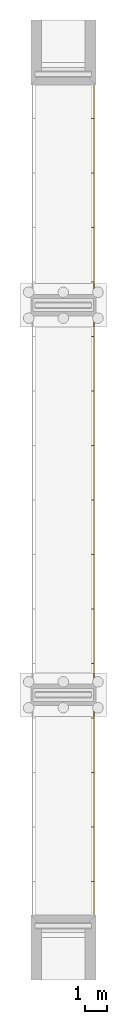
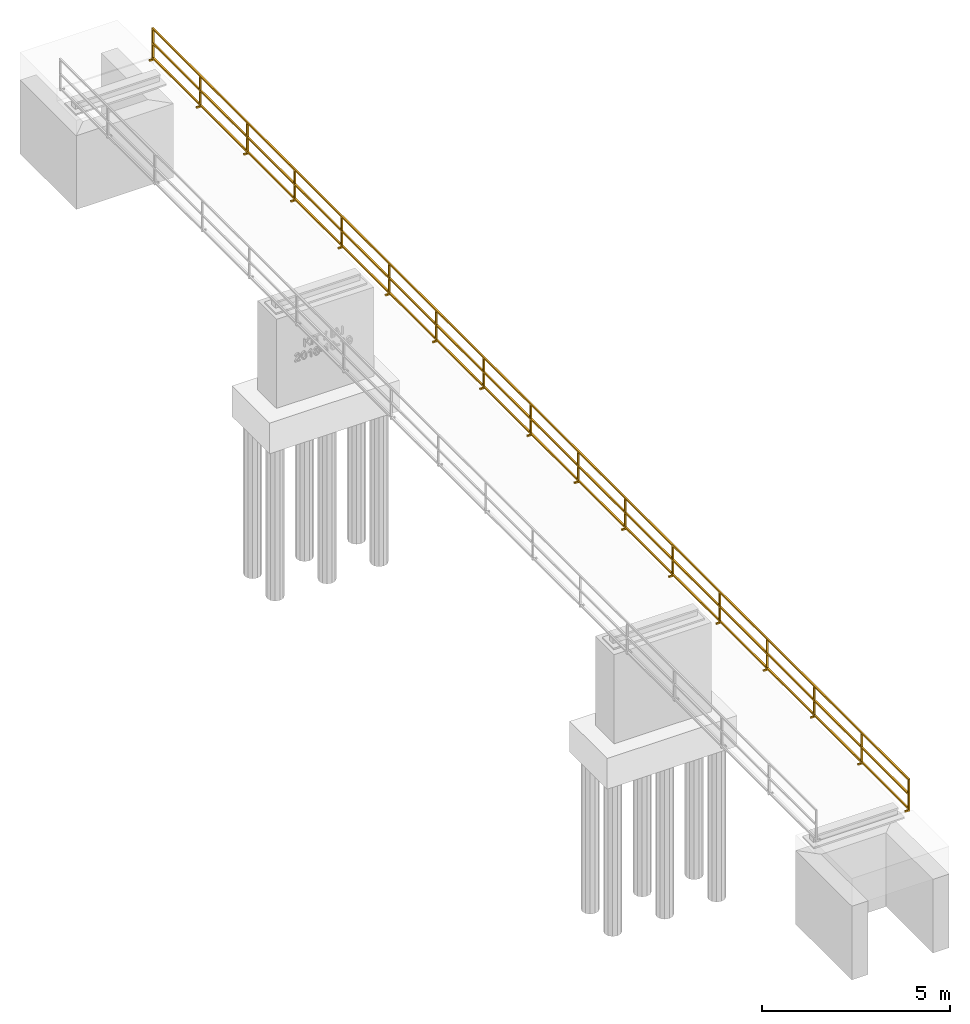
# Not in any storey, part 4 of 5: 1 railing.
"""IFC4X2 model written with IfcOpenShell, lengths in millimetres."""

from ifc_helpers import new_model, entity, si_unit, converted_unit, direction, frame, origin, origin_with_axes, place, context, project, spatial, faceted_brep, element, save


model = new_model("IFC4X2")

# Units and contexts
model_context = context("Model", 3, precision=1e-05, world=origin(), true_north=direction((0.0, 1.0)))
ifc_project = project(units=[si_unit("LENGTHUNIT", "METRE", prefix="MILLI"), si_unit("AREAUNIT", "SQUARE_METRE"), si_unit("VOLUMEUNIT", "CUBIC_METRE"), converted_unit("PLANEANGLEUNIT", "DEGREE", entity("IfcPlaneAngleMeasure", 0.01745), si_unit("PLANEANGLEUNIT", "RADIAN"), dimensions=[0, 0, 0, 0, 0, 0, 0]), si_unit("SOLIDANGLEUNIT", "STERADIAN"), si_unit("MASSUNIT", "GRAM"), si_unit("TIMEUNIT", "SECOND"), si_unit("THERMODYNAMICTEMPERATUREUNIT", "DEGREE_CELSIUS"), si_unit("LUMINOUSINTENSITYUNIT", "LUMEN")], contexts=[model_context])

# Site, bridge, bridge part
placement = place(None, origin_with_axes())
site_placement = place(placement, frame((-19933.8083659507, -30174.99999999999, -13595.54569832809), z_axis=(0.0, 0.0, 1.0), x_axis=(1.0, 0.0, 0.0)))
site = spatial("IfcSite", under=ifc_project, at=site_placement, Name="Default Site", CompositionType="ELEMENT")
bridge_placement = place(placement, origin_with_axes())
bridge = spatial("IfcBridge", under=site, at=bridge_placement, Name="KIT - Bridge", CompositionType="ELEMENT")
bridge_part_placement = place(bridge_placement, origin_with_axes())
bridge_part = spatial("IfcBridgePart", under=bridge, at=bridge_part_placement, Name="Superstructure", CompositionType="ELEMENT", PredefinedType="SUBSTRUCTURE")

# Railing
railing_placement = place(bridge_part_placement, frame((3449.99999999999, 10024.99999999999, 3249.999999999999), z_axis=(0.0, 0.0, 1.0), x_axis=(-1.0, 7.771561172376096e-16, 0.0)))
element("IfcRailing", 1, at=railing_placement, inside=bridge_part, Name="Railing-02", context=model_context, shape_type="Brep", body=[
    faceted_brep([(0.0, 0.0, 0.0), (-7.219114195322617e-13, -5.775291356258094e-12, 50.00000000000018), (-2.165734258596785e-12, -2468.750000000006, 50.00000000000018), (-2.165734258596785e-12, -2468.750000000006, 0.0), (-2.165734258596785e-12, -2518.750000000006, 0.0), (-2.165734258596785e-12, -2518.750000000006, 50.00000000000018), (-2.165734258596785e-12, -4987.500000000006, 50.00000000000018), (-2.165734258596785e-12, -4987.500000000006, 0.0), (-2.165734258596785e-12, -5037.500000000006, 0.0), (-2.165734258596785e-12, -5037.500000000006, 50.00000000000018), (-7.219114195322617e-13, -7506.250000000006, 50.00000000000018), (-7.219114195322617e-13, -7506.250000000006, 0.0), (-7.219114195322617e-13, -7556.250000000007, 0.0), (-7.219114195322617e-13, -7556.250000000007, 50.00000000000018), (-2.165734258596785e-12, -10025.0, 50.00000000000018), (-2.165734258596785e-12, -10025.0, 0.0), (-2.165734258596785e-12, -10075.0, 0.0), (-2.165734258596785e-12, -10075.0, 50.00000000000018), (-2.887645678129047e-12, -12543.75, 50.00000000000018), (-2.887645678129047e-12, -12543.75, 0.0), (-2.165734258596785e-12, -12593.75, 0.0), (-2.165734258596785e-12, -12593.75, 50.00000000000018), (-2.165734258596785e-12, -15062.5, 50.00000000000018), (-2.165734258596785e-12, -15062.5, 0.0), (-2.165734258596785e-12, -15112.5, 0.0), (-2.165734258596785e-12, -15112.5, 50.00000000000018), (-7.219114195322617e-13, -17581.25, 50.00000000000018), (-7.219114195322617e-13, -17581.25, 0.0), (-7.219114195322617e-13, -17631.25, 0.0), (-7.219114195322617e-13, -17631.25, 50.00000000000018), (-2.165734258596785e-12, -20100.0, 50.00000000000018), (-2.165734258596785e-12, -20100.0, 0.0), (-2.165734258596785e-12, -20150.0, 0.0), (-2.165734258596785e-12, -20150.0, 1050.0), (0.0, 20200.0, 1050.0), (0.0, 20200.0, 0.0), (0.0, 20150.0, 0.0), (0.0, 20150.0, 50.00000000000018), (0.0, 17681.25, 50.00000000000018), (0.0, 17681.25, 0.0), (0.0, 17631.25, 0.0), (0.0, 17631.25, 50.00000000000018), (-2.887645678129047e-12, 15162.5, 50.00000000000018), (-2.887645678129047e-12, 15162.5, 0.0), (-2.887645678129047e-12, 15112.5, 0.0), (-2.887645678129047e-12, 15112.5, 50.00000000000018), (0.0, 12643.75, 50.00000000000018), (0.0, 12643.75, 0.0), (0.0, 12593.75, 0.0), (0.0, 12593.75, 50.00000000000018), (0.0, 10125.0, 50.00000000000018), (0.0, 10125.0, 0.0), (0.0, 10075.0, 0.0), (0.0, 10075.0, 50.00000000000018), (-2.887645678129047e-12, 7606.250000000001, 50.00000000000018), (-2.887645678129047e-12, 7606.250000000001, 0.0), (0.0, 7556.250000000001, 0.0), (0.0, 7556.250000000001, 50.00000000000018), (-2.887645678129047e-12, 5087.500000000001, 50.00000000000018), (-2.887645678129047e-12, 5087.500000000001, 0.0), (-2.887645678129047e-12, 5037.500000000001, 0.0), (-2.887645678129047e-12, 5037.500000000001, 50.00000000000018), (0.0, 2568.75, 50.00000000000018), (0.0, 2568.75, 0.0), (0.0, 2518.75, 0.0), (0.0, 2518.75, 50.00000000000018), (0.0, 50.00000000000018, 50.00000000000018), (0.0, 50.00000000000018, 0.0), (-7.219114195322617e-13, -5.775291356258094e-12, 100.0000000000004), (-7.219114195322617e-13, -5.775291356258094e-12, 525.0000000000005), (-2.165734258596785e-12, -2468.750000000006, 525.0000000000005), (-2.165734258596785e-12, -2468.750000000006, 100.0000000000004), (0.0, 50.00000000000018, 1000.0), (0.0, 50.00000000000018, 575.0000000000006), (0.0, 2518.75, 575.0000000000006), (0.0, 2518.75, 1000.0), (0.0, 50.00000000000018, 525.0000000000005), (0.0, 50.00000000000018, 100.0000000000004), (0.0, 2518.75, 100.0000000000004), (0.0, 2518.75, 525.0000000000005), (-7.219114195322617e-13, -5.775291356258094e-12, 575.0000000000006), (-7.219114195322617e-13, -5.775291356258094e-12, 1000.0), (-2.165734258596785e-12, -2468.750000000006, 1000.0), (-2.165734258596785e-12, -2468.750000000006, 575.0000000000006), (-2.165734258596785e-12, -2518.750000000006, 575.0000000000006), (-2.165734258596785e-12, -2518.750000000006, 1000.0), (-2.165734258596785e-12, -4987.500000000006, 1000.0), (-2.165734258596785e-12, -4987.500000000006, 575.0000000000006), (-2.165734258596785e-12, -2518.750000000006, 100.0000000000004), (-2.165734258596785e-12, -2518.750000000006, 525.0000000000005), (-2.165734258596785e-12, -4987.500000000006, 525.0000000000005), (-2.165734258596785e-12, -4987.500000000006, 100.0000000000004), (-2.165734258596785e-12, -5037.500000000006, 575.0000000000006), (-2.165734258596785e-12, -5037.500000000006, 1000.0), (-7.219114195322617e-13, -7506.250000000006, 1000.0), (-7.219114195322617e-13, -7506.250000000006, 575.0000000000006), (-2.165734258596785e-12, -5037.500000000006, 100.0000000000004), (-2.165734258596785e-12, -5037.500000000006, 525.0000000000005), (-7.219114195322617e-13, -7506.250000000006, 525.0000000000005), (-7.219114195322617e-13, -7506.250000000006, 100.0000000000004), (-7.219114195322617e-13, -7556.250000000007, 575.0000000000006), (-7.219114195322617e-13, -7556.250000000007, 1000.0), (-2.165734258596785e-12, -10025.0, 1000.0), (-2.165734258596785e-12, -10025.0, 575.0000000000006), (-7.219114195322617e-13, -7556.250000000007, 100.0000000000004), (-7.219114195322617e-13, -7556.250000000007, 525.0000000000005), (-2.165734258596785e-12, -10025.0, 525.0000000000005), (-2.165734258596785e-12, -10025.0, 100.0000000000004), (-7.219114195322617e-13, -17631.25, 100.0000000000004), (-7.219114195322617e-13, -17631.25, 525.0000000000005), (-2.165734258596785e-12, -20100.0, 525.0000000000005), (-2.165734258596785e-12, -20100.0, 100.0000000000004), (-7.219114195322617e-13, -17631.25, 575.0000000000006), (-7.219114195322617e-13, -17631.25, 1000.0), (-2.165734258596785e-12, -20100.0, 1000.0), (-2.165734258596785e-12, -20100.0, 575.0000000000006), (-2.165734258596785e-12, -15112.5, 100.0000000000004), (-2.165734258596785e-12, -15112.5, 525.0000000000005), (-7.219114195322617e-13, -17581.25, 525.0000000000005), (-7.219114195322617e-13, -17581.25, 100.0000000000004), (-2.165734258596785e-12, -15112.5, 575.0000000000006), (-2.165734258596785e-12, -15112.5, 1000.0), (-7.219114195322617e-13, -17581.25, 1000.0), (-7.219114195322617e-13, -17581.25, 575.0000000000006), (-2.165734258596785e-12, -15062.5, 525.0000000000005), (-2.165734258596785e-12, -15062.5, 100.0000000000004), (-2.165734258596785e-12, -12593.75, 100.0000000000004), (-2.165734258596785e-12, -12593.75, 525.0000000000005), (-2.165734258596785e-12, -15062.5, 1000.0), (-2.165734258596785e-12, -15062.5, 575.0000000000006), (-2.165734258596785e-12, -12593.75, 575.0000000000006), (-2.165734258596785e-12, -12593.75, 1000.0), (-2.887645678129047e-12, -12543.75, 525.0000000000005), (-2.887645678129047e-12, -12543.75, 100.0000000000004), (-2.165734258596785e-12, -10075.0, 100.0000000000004), (-2.165734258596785e-12, -10075.0, 525.0000000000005), (-2.887645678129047e-12, -12543.75, 1000.0), (-2.887645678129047e-12, -12543.75, 575.0000000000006), (-2.165734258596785e-12, -10075.0, 575.0000000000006), (-2.165734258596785e-12, -10075.0, 1000.0), (0.0, 17681.25, 1000.0), (0.0, 17681.25, 575.0000000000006), (0.0, 20150.0, 575.0000000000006), (0.0, 20150.0, 1000.0), (0.0, 17681.25, 525.0000000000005), (0.0, 17681.25, 100.0000000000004), (0.0, 20150.0, 100.0000000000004), (0.0, 20150.0, 525.0000000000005), (0.0, 17631.25, 100.0000000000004), (0.0, 17631.25, 525.0000000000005), (-2.887645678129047e-12, 15162.5, 525.0000000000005), (-2.887645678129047e-12, 15162.5, 100.0000000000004), (0.0, 17631.25, 575.0000000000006), (0.0, 17631.25, 1000.0), (-2.887645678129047e-12, 15162.5, 1000.0), (-2.887645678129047e-12, 15162.5, 575.0000000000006), (-2.887645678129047e-12, 15112.5, 100.0000000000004), (-2.887645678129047e-12, 15112.5, 525.0000000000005), (0.0, 12643.75, 525.0000000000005), (0.0, 12643.75, 100.0000000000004), (-2.887645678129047e-12, 15112.5, 575.0000000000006), (-2.887645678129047e-12, 15112.5, 1000.0), (0.0, 12643.75, 1000.0), (0.0, 12643.75, 575.0000000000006), (0.0, 12593.75, 100.0000000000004), (0.0, 12593.75, 525.0000000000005), (0.0, 10125.0, 525.0000000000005), (0.0, 10125.0, 100.0000000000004), (0.0, 12593.75, 575.0000000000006), (0.0, 12593.75, 1000.0), (0.0, 10125.0, 1000.0), (0.0, 10125.0, 575.0000000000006), (-2.887645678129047e-12, 7606.249999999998, 525.0000000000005), (-2.887645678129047e-12, 7606.250000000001, 100.0000000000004), (0.0, 10075.0, 100.0000000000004), (0.0, 10075.0, 525.0000000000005), (-2.887645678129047e-12, 7606.249999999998, 1000.0), (-2.887645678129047e-12, 7606.249999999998, 575.0000000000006), (0.0, 10075.0, 575.0000000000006), (0.0, 10075.0, 1000.0), (0.0, 7556.249999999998, 575.0000000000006), (0.0, 7556.249999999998, 1000.0), (-2.887645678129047e-12, 5087.500000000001, 1000.0), (-2.887645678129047e-12, 5087.500000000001, 575.0000000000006), (0.0, 7556.249999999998, 100.0000000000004), (0.0, 7556.249999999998, 525.0000000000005), (-2.887645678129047e-12, 5087.500000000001, 525.0000000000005), (-2.887645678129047e-12, 5087.500000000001, 100.0000000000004), (0.0, 2568.75, 525.0000000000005), (0.0, 2568.75, 100.0000000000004), (-2.887645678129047e-12, 5037.500000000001, 100.0000000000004), (-2.887645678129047e-12, 5037.500000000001, 525.0000000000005), (0.0, 2568.75, 1000.0), (0.0, 2568.75, 575.0000000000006), (-2.887645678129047e-12, 5037.500000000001, 575.0000000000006), (-2.887645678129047e-12, 5037.500000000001, 1000.0), (149.9999999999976, -20100.0, 50.00000000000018), (149.9999999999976, -20150.0, 50.00000000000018), (149.9999999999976, -20150.0, 0.0), (149.9999999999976, -20100.0, 0.0), (49.99999999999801, -20100.0, 50.00000000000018), (49.99999999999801, -20150.0, 50.00000000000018), (49.99999999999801, -10075.0, 50.00000000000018), (49.99999999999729, -12543.75, 50.00000000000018), (149.9999999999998, 50.00000000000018, 0.0), (149.9999999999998, 0.0, 0.0), (149.9999999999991, -7506.250000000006, 0.0), (149.9999999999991, -7556.250000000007, 0.0), (49.99999999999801, -15112.5, 50.00000000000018), (49.99999999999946, -17581.25, 50.00000000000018), (49.99999999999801, -12593.75, 50.00000000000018), (49.99999999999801, -15062.5, 50.00000000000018), (49.99999999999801, -2518.750000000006, 50.00000000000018), (49.99999999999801, -4987.500000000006, 50.00000000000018), (149.9999999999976, -10075.0, 0.0), (149.9999999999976, -10075.0, 50.00000000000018), (149.9999999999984, -15112.5, 0.0), (149.9999999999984, -15112.5, 50.00000000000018), (49.99999999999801, -5037.500000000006, 50.00000000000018), (49.99999999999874, -7506.250000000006, 50.00000000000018), (149.9999999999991, -7506.250000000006, 50.00000000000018), (49.99999999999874, -7556.250000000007, 50.00000000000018), (49.99999999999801, -10025.0, 50.00000000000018), (149.9999999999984, -15062.5, 50.00000000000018), (149.9999999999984, -15062.5, 0.0), (149.9999999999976, -5037.500000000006, 0.0), (149.9999999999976, -5037.500000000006, 50.00000000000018), (149.9999999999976, -4987.500000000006, 50.00000000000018), (149.9999999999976, -4987.500000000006, 0.0), (149.9999999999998, 50.00000000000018, 50.00000000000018), (50.00000000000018, 50.00000000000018, 50.00000000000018), (50.00000000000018, 0.0, 50.00000000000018), (149.9999999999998, 0.0, 50.00000000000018), (49.99999999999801, -20150.0, 1050.0), (149.9999999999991, -7556.250000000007, 50.00000000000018), (149.9999999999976, -10025.0, 0.0), (149.9999999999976, -10025.0, 50.00000000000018), (149.9999999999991, -17631.25, 50.00000000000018), (149.9999999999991, -17581.25, 50.00000000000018), (49.99999999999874, -17631.25, 50.00000000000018), (149.9999999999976, -12543.75, 50.00000000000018), (149.9999999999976, -12593.75, 50.00000000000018), (149.9999999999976, -12593.75, 0.0), (149.9999999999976, -12543.75, 0.0), (149.9999999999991, -17631.25, 0.0), (149.9999999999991, -17581.25, 0.0), (49.99999999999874, -5.775291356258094e-12, 100.0000000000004), (49.99999999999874, -5.775291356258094e-12, 525.0000000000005), (49.99999999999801, -15062.5, 1000.0), (49.99999999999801, -15062.5, 575.0000000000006), (49.99999999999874, -7556.250000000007, 1000.0), (49.99999999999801, -10025.0, 1000.0), (49.99999999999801, -2468.750000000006, 525.0000000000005), (49.99999999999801, -2468.750000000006, 100.0000000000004), (49.99999999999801, -15112.5, 575.0000000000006), (49.99999999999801, -15112.5, 1000.0), (49.99999999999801, -12593.75, 575.0000000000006), (49.99999999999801, -12593.75, 1000.0), (49.99999999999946, -17581.25, 1000.0), (49.99999999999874, -7556.250000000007, 575.0000000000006), (49.99999999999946, -17581.25, 575.0000000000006), (49.99999999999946, 2518.75, 50.00000000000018), (50.00000000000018, 2568.75, 50.00000000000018), (49.99999999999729, 5037.500000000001, 50.00000000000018), (49.99999999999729, 5087.500000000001, 50.00000000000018), (50.00000000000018, 7556.250000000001, 50.00000000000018), (49.99999999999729, 7606.250000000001, 50.00000000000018), (50.00000000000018, 10075.0, 50.00000000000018), (50.00000000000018, 10125.0, 50.00000000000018), (49.99999999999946, 12593.75, 50.00000000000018), (49.99999999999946, 12643.75, 50.00000000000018), (49.99999999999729, 15112.5, 50.00000000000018), (49.99999999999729, 15162.5, 50.00000000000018), (50.00000000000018, 17631.25, 50.00000000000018), (50.00000000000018, 17681.25, 50.00000000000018), (49.99999999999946, 20150.0, 50.00000000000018), (49.99999999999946, 20200.0, 50.00000000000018), (49.99999999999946, 20200.0, 1050.0), (49.99999999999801, -2468.750000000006, 50.00000000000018), (49.99999999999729, -12543.75, 575.0000000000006), (49.99999999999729, -12543.75, 1000.0), (49.99999999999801, -10075.0, 1000.0), (49.99999999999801, -10075.0, 575.0000000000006), (49.99999999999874, -7506.250000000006, 525.0000000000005), (49.99999999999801, -5037.500000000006, 525.0000000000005), (49.99999999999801, -5037.500000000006, 100.0000000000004), (49.99999999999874, -7506.250000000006, 100.0000000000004), (49.99999999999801, -4987.500000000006, 525.0000000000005), (49.99999999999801, -2518.750000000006, 525.0000000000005), (49.99999999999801, -2518.750000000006, 100.0000000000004), (49.99999999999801, -4987.500000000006, 100.0000000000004), (49.99999999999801, -10025.0, 575.0000000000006), (49.99999999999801, -20100.0, 575.0000000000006), (49.99999999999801, -20100.0, 1000.0), (49.99999999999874, -17631.25, 1000.0), (49.99999999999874, -17631.25, 575.0000000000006), (49.99999999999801, -20100.0, 525.0000000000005), (49.99999999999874, -17631.25, 525.0000000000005), (49.99999999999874, -17631.25, 100.0000000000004), (49.99999999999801, -20100.0, 100.0000000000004), (49.99999999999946, -17581.25, 525.0000000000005), (49.99999999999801, -15112.5, 525.0000000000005), (49.99999999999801, -15112.5, 100.0000000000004), (49.99999999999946, -17581.25, 100.0000000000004), (49.99999999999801, -2468.750000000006, 575.0000000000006), (49.99999999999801, -2468.750000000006, 1000.0), (49.99999999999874, -5.775291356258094e-12, 1000.0), (49.99999999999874, -5.775291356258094e-12, 575.0000000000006), (49.99999999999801, -4987.500000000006, 575.0000000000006), (49.99999999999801, -4987.500000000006, 1000.0), (49.99999999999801, -2518.750000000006, 1000.0), (49.99999999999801, -2518.750000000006, 575.0000000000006), (49.99999999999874, -7506.250000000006, 575.0000000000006), (49.99999999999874, -7506.250000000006, 1000.0), (49.99999999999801, -5037.500000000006, 1000.0), (49.99999999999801, -5037.500000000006, 575.0000000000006), (49.99999999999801, -10025.0, 525.0000000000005), (49.99999999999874, -7556.250000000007, 525.0000000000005), (49.99999999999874, -7556.250000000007, 100.0000000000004), (49.99999999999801, -10025.0, 100.0000000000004), (49.99999999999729, -12543.75, 525.0000000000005), (49.99999999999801, -10075.0, 525.0000000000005), (49.99999999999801, -10075.0, 100.0000000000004), (49.99999999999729, -12543.75, 100.0000000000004), (49.99999999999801, -15062.5, 525.0000000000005), (49.99999999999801, -12593.75, 525.0000000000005), (49.99999999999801, -12593.75, 100.0000000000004), (49.99999999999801, -15062.5, 100.0000000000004), (49.99999999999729, 5087.500000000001, 525.0000000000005), (50.00000000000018, 7556.249999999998, 525.0000000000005), (50.00000000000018, 7556.249999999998, 100.0000000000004), (49.99999999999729, 5087.500000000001, 100.0000000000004), (49.99999999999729, 7606.249999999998, 525.0000000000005), (50.00000000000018, 10075.0, 525.0000000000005), (50.00000000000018, 10075.0, 100.0000000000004), (49.99999999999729, 7606.250000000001, 100.0000000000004), (50.00000000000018, 10125.0, 525.0000000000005), (49.99999999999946, 12593.75, 525.0000000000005), (49.99999999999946, 12593.75, 100.0000000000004), (50.00000000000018, 10125.0, 100.0000000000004), (49.99999999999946, 12643.75, 575.0000000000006), (49.99999999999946, 12643.75, 1000.0), (49.99999999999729, 15112.5, 1000.0), (49.99999999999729, 15112.5, 575.0000000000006), (49.99999999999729, 15162.5, 575.0000000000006), (49.99999999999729, 15162.5, 1000.0), (50.00000000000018, 17631.25, 1000.0), (50.00000000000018, 17631.25, 575.0000000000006), (50.00000000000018, 17681.25, 575.0000000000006), (50.00000000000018, 17681.25, 1000.0), (49.99999999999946, 20150.0, 1000.0), (49.99999999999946, 20150.0, 575.0000000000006), (50.00000000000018, 2568.75, 525.0000000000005), (49.99999999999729, 5037.500000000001, 525.0000000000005), (49.99999999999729, 5037.500000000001, 100.0000000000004), (50.00000000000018, 2568.75, 100.0000000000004), (50.00000000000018, 17681.25, 525.0000000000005), (49.99999999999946, 20150.0, 525.0000000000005), (49.99999999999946, 20150.0, 100.0000000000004), (50.00000000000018, 17681.25, 100.0000000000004), (49.99999999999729, 5087.500000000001, 575.0000000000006), (49.99999999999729, 5087.500000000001, 1000.0), (50.00000000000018, 7556.249999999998, 1000.0), (50.00000000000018, 7556.249999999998, 575.0000000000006), (50.00000000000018, 2568.75, 575.0000000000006), (50.00000000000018, 2568.75, 1000.0), (49.99999999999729, 5037.500000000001, 1000.0), (49.99999999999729, 5037.500000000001, 575.0000000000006), (50.00000000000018, 10125.0, 575.0000000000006), (50.00000000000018, 10125.0, 1000.0), (49.99999999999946, 12593.75, 1000.0), (49.99999999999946, 12593.75, 575.0000000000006), (49.99999999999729, 15162.5, 525.0000000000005), (50.00000000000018, 17631.25, 525.0000000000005), (50.00000000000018, 17631.25, 100.0000000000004), (49.99999999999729, 15162.5, 100.0000000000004), (49.99999999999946, 12643.75, 525.0000000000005), (49.99999999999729, 15112.5, 525.0000000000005), (49.99999999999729, 15112.5, 100.0000000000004), (49.99999999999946, 12643.75, 100.0000000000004), (49.99999999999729, 7606.249999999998, 575.0000000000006), (49.99999999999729, 7606.249999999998, 1000.0), (50.00000000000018, 10075.0, 1000.0), (50.00000000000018, 10075.0, 575.0000000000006), (49.99999999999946, 2518.75, 575.0000000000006), (50.00000000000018, 50.00000000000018, 575.0000000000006), (50.00000000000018, 50.00000000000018, 1000.0), (49.99999999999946, 2518.75, 1000.0), (49.99999999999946, 2518.75, 100.0000000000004), (50.00000000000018, 50.00000000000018, 100.0000000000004), (50.00000000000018, 50.00000000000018, 525.0000000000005), (49.99999999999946, 2518.75, 525.0000000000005), (149.9999999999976, -2468.750000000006, 50.00000000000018), (149.9999999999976, -2468.750000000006, 0.0), (149.9999999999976, -2518.750000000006, 0.0), (149.9999999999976, -2518.750000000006, 50.00000000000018), (149.9999999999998, 10075.0, 0.0), (149.9999999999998, 10075.0, 50.00000000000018), (149.9999999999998, 10125.0, 0.0), (149.9999999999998, 10125.0, 50.00000000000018), (149.9999999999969, 15162.5, 50.00000000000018), (149.9999999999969, 15162.5, 0.0), (149.9999999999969, 15112.5, 0.0), (149.9999999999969, 15112.5, 50.00000000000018), (149.9999999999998, 12643.75, 0.0), (149.9999999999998, 12593.75, 0.0), (149.9999999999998, 12643.75, 50.00000000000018), (149.9999999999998, 12593.75, 50.00000000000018), (149.9999999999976, 5037.500000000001, 0.0), (149.9999999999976, 5037.500000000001, 50.00000000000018), (149.9999999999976, 5087.500000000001, 50.00000000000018), (149.9999999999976, 5087.500000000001, 0.0), (149.9999999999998, 20200.0, 50.00000000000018), (149.9999999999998, 20150.0, 50.00000000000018), (149.9999999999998, 20200.0, 0.0), (149.9999999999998, 20150.0, 0.0), (149.9999999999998, 7556.250000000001, 0.0), (149.9999999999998, 7556.250000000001, 50.00000000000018), (149.9999999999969, 7606.250000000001, 50.00000000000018), (149.9999999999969, 7606.250000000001, 0.0), (149.9999999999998, 2518.75, 50.00000000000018), (149.9999999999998, 2568.75, 50.00000000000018), (149.9999999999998, 2518.75, 0.0), (149.9999999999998, 2568.75, 0.0), (149.9999999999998, 17681.25, 50.00000000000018), (149.9999999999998, 17631.25, 50.00000000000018), (149.9999999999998, 17631.25, 0.0), (149.9999999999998, 17681.25, 0.0)], [[[0, 1, 2, 3, 4, 5, 6, 7, 8, 9, 10, 11, 12, 13, 14, 15, 16, 17, 18, 19, 20, 21, 22, 23, 24, 25, 26, 27, 28, 29, 30, 31, 32, 33, 34, 35, 36, 37, 38, 39, 40, 41, 42, 43, 44, 45, 46, 47, 48, 49, 50, 51, 52, 53, 54, 55, 56, 57, 58, 59, 60, 61, 62, 63, 64, 65, 66, 67], [68, 69, 70, 71], [72, 73, 74, 75], [76, 77, 78, 79], [80, 81, 82, 83], [84, 85, 86, 87], [88, 89, 90, 91], [92, 93, 94, 95], [96, 97, 98, 99], [100, 101, 102, 103], [104, 105, 106, 107], [108, 109, 110, 111], [112, 113, 114, 115], [116, 117, 118, 119], [120, 121, 122, 123], [124, 125, 126, 127], [128, 129, 130, 131], [132, 133, 134, 135], [136, 137, 138, 139], [140, 141, 142, 143], [144, 145, 146, 147], [148, 149, 150, 151], [152, 153, 154, 155], [156, 157, 158, 159], [160, 161, 162, 163], [164, 165, 166, 167], [168, 169, 170, 171], [172, 173, 174, 175], [176, 177, 178, 179], [180, 181, 182, 183], [184, 185, 186, 187], [188, 189, 190, 191], [192, 193, 194, 195]], [[196, 197, 198, 199]], [[197, 196, 200, 201]], [[202, 203, 18, 17]], [[67, 204, 205, 0]], [[206, 207, 12, 11]], [[26, 25, 208, 209]], [[22, 21, 210, 211]], [[212, 213, 6, 5]], [[16, 214, 215, 202, 17]], [[24, 216, 217, 208, 25]], [[218, 219, 10, 9]], [[219, 220, 206, 11, 10]], [[221, 222, 14, 13]], [[211, 223, 224, 23, 22]], [[8, 225, 226, 218, 9]], [[200, 196, 199, 31, 30]], [[213, 227, 228, 7, 6]], [[229, 230, 231, 232]], [[199, 198, 32, 31]], [[197, 201, 233, 33, 32, 198]], [[1, 0, 205, 232, 231]], [[12, 207, 234, 221, 13]], [[224, 216, 24, 23]], [[228, 225, 8, 7]], [[235, 214, 16, 15]], [[222, 236, 235, 15, 14]], [[237, 238, 209, 239]], [[240, 241, 242, 243]], [[223, 217, 216, 224]], [[217, 223, 211, 208]], [[226, 227, 213, 218]], [[227, 226, 225, 228]], [[215, 236, 222, 202]], [[203, 240, 243, 19, 18]], [[234, 220, 219, 221]], [[20, 242, 241, 210, 21]], [[238, 237, 244, 245]], [[220, 234, 207, 206]], [[236, 215, 214, 235]], [[243, 242, 20, 19]], [[241, 240, 203, 210]], [[69, 68, 246, 247]], [[129, 128, 248, 249]], [[102, 101, 250, 251]], [[71, 70, 252, 253]], [[121, 120, 254, 255]], [[68, 71, 253, 246]], [[204, 229, 232, 205]], [[70, 69, 247, 252]], [[131, 130, 256, 257]], [[122, 121, 255, 258]], [[130, 129, 249, 256]], [[101, 100, 259, 250]], [[123, 122, 258, 260]], [[231, 230, 261, 262, 263, 264, 265, 266, 267, 268, 269, 270, 271, 272, 273, 274, 275, 276, 277, 233, 201, 200, 239, 209, 208, 211, 210, 203, 202, 222, 221, 219, 218, 213, 212, 278], [279, 280, 281, 282], [283, 284, 285, 286], [287, 288, 289, 290], [291, 251, 250, 259], [260, 258, 255, 254], [249, 248, 257, 256], [252, 247, 246, 253], [292, 293, 294, 295], [296, 297, 298, 299], [300, 301, 302, 303], [304, 305, 306, 307], [308, 309, 310, 311], [312, 313, 314, 315], [316, 317, 318, 319], [320, 321, 322, 323], [324, 325, 326, 327], [328, 329, 330, 331], [332, 333, 334, 335], [336, 337, 338, 339], [340, 341, 342, 343], [344, 345, 346, 347], [348, 349, 350, 351], [352, 353, 354, 355], [356, 357, 358, 359], [360, 361, 362, 363], [364, 365, 366, 367], [368, 369, 370, 371], [372, 373, 374, 375], [376, 377, 378, 379], [380, 381, 382, 383], [384, 385, 386, 387], [388, 389, 390, 391]], [[128, 131, 257, 248]], [[120, 123, 260, 254]], [[136, 139, 281, 280]], [[233, 277, 34, 33]], [[138, 137, 279, 282]], [[96, 99, 286, 285]], [[90, 89, 288, 287]], [[88, 91, 290, 289]], [[100, 103, 291, 259]], [[137, 136, 280, 279]], [[89, 88, 289, 288]], [[97, 96, 285, 284]], [[139, 138, 282, 281]], [[30, 29, 239, 200]], [[103, 102, 251, 291]], [[91, 90, 287, 290]], [[98, 97, 284, 283]], [[99, 98, 283, 286]], [[278, 392, 393, 3, 2]], [[114, 113, 294, 293]], [[112, 115, 292, 295]], [[119, 118, 300, 303]], [[80, 83, 304, 307]], [[209, 238, 245, 27, 26]], [[393, 394, 4, 3]], [[392, 395, 394, 393]], [[4, 394, 395, 212, 5]], [[395, 392, 278, 212]], [[28, 244, 237, 239, 29]], [[81, 80, 307, 306]], [[231, 278, 2, 1]], [[245, 244, 28, 27]], [[83, 82, 305, 304]], [[92, 95, 312, 315]], [[85, 84, 311, 310]], [[86, 85, 310, 309]], [[82, 81, 306, 305]], [[115, 114, 293, 292]], [[87, 86, 309, 308]], [[95, 94, 313, 312]], [[110, 109, 297, 296]], [[94, 93, 314, 313]], [[117, 116, 302, 301]], [[109, 108, 298, 297]], [[93, 92, 315, 314]], [[118, 117, 301, 300]], [[84, 87, 308, 311]], [[113, 112, 295, 294]], [[116, 119, 303, 302]], [[111, 110, 296, 299]], [[134, 133, 323, 322]], [[125, 124, 324, 327]], [[105, 104, 318, 317]], [[127, 126, 326, 325]], [[108, 111, 299, 298]], [[104, 107, 319, 318]], [[124, 127, 325, 324]], [[132, 135, 321, 320]], [[126, 125, 327, 326]], [[106, 105, 317, 316]], [[133, 132, 320, 323]], [[107, 106, 316, 319]], [[135, 134, 322, 321]], [[230, 229, 204, 67, 66]], [[52, 396, 397, 267, 53]], [[271, 270, 46, 45]], [[398, 396, 52, 51]], [[268, 399, 398, 51, 50]], [[269, 268, 50, 49]], [[272, 400, 401, 43, 42]], [[44, 402, 403, 271, 45]], [[404, 405, 48, 47]], [[270, 406, 404, 47, 46]], [[62, 61, 263, 262]], [[401, 402, 44, 43]], [[48, 405, 407, 269, 49]], [[273, 272, 42, 41]], [[58, 57, 265, 264]], [[60, 408, 409, 263, 61]], [[267, 266, 54, 53]], [[264, 410, 411, 59, 58]], [[411, 408, 60, 59]], [[412, 276, 275, 413]], [[35, 414, 415, 36]], [[37, 36, 415, 413, 275]], [[414, 412, 413, 415]], [[403, 400, 272, 271]], [[400, 403, 402, 401]], [[407, 406, 270, 269]], [[406, 407, 405, 404]], [[397, 399, 268, 267]], [[399, 397, 396, 398]], [[56, 416, 417, 265, 57]], [[409, 410, 264, 263]], [[266, 418, 419, 55, 54]], [[419, 416, 56, 55]], [[417, 418, 266, 265]], [[418, 417, 416, 419]], [[410, 409, 408, 411]], [[420, 421, 262, 261]], [[421, 420, 422, 423]], [[146, 145, 359, 358]], [[145, 144, 356, 359]], [[182, 181, 362, 361]], [[169, 168, 371, 370]], [[183, 182, 361, 360]], [[192, 195, 366, 365]], [[147, 146, 358, 357]], [[170, 169, 370, 369]], [[195, 194, 367, 366]], [[180, 183, 360, 363]], [[144, 147, 357, 356]], [[181, 180, 363, 362]], [[194, 193, 364, 367]], [[193, 192, 365, 364]], [[168, 171, 368, 371]], [[171, 170, 369, 368]], [[151, 150, 372, 375]], [[176, 179, 382, 381]], [[277, 276, 412, 414, 35, 34]], [[149, 148, 374, 373]], [[156, 159, 379, 378]], [[157, 156, 378, 377]], [[158, 157, 377, 376]], [[177, 176, 381, 380]], [[159, 158, 376, 379]], [[179, 178, 383, 382]], [[178, 177, 380, 383]], [[148, 151, 375, 374]], [[150, 149, 373, 372]], [[66, 65, 261, 230]], [[424, 425, 426, 427]], [[262, 421, 423, 63, 62]], [[425, 424, 274, 273]], [[274, 424, 427, 39, 38]], [[64, 422, 420, 261, 65]], [[275, 274, 38, 37]], [[40, 426, 425, 273, 41]], [[427, 426, 40, 39]], [[423, 422, 64, 63]], [[72, 75, 387, 386]], [[74, 73, 385, 384]], [[189, 188, 352, 355]], [[142, 141, 348, 351]], [[141, 140, 349, 348]], [[160, 163, 340, 343]], [[143, 142, 351, 350]], [[163, 162, 341, 340]], [[162, 161, 342, 341]], [[161, 160, 343, 342]], [[188, 191, 353, 352]], [[77, 76, 390, 389]], [[154, 153, 346, 345]], [[153, 152, 347, 346]], [[79, 78, 388, 391]], [[152, 155, 344, 347]], [[76, 79, 391, 390]], [[73, 72, 386, 385]], [[191, 190, 354, 353]], [[75, 74, 384, 387]], [[155, 154, 345, 344]], [[140, 143, 350, 349]], [[190, 189, 355, 354]], [[78, 77, 389, 388]], [[186, 185, 329, 328]], [[167, 166, 336, 339]], [[185, 184, 330, 329]], [[174, 173, 335, 334]], [[173, 172, 332, 335]], [[165, 164, 338, 337]], [[175, 174, 334, 333]], [[184, 187, 331, 330]], [[164, 167, 339, 338]], [[187, 186, 328, 331]], [[166, 165, 337, 336]], [[172, 175, 333, 332]]]),
])

save(model, "model.ifc")
